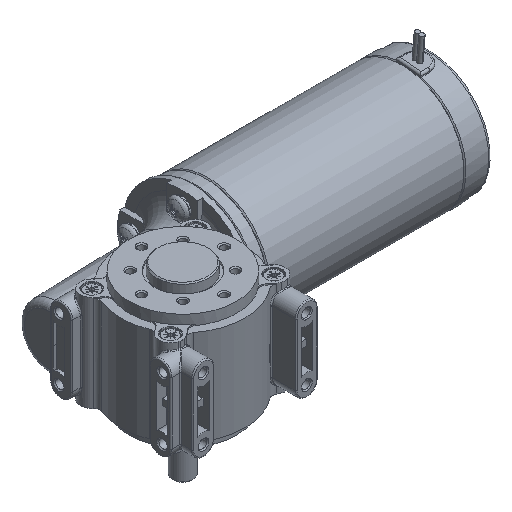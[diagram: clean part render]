
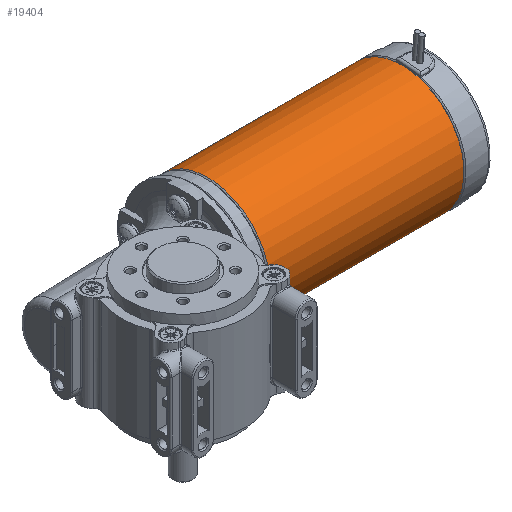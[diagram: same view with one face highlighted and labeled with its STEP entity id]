
A CAD part, isometric view. The second image highlights one B-rep face of the part: STEP entity #19404.
In plain terms, the highlighted cylindrical face has radius 30 mm (diameter 60 mm), a full revolution.
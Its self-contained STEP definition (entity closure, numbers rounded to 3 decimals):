
#2275=FACE_OUTER_BOUND('',#3442,.T.);
#3442=EDGE_LOOP('',(#16176,#16177,#16178,#16179));
#4700=CIRCLE('',#21446,30.);
#4701=CIRCLE('',#21448,30.);
#5858=LINE('',#35704,#6951);
#6951=VECTOR('',#26433,30.);
#8571=VERTEX_POINT('',#35698);
#8572=VERTEX_POINT('',#35702);
#11180=EDGE_CURVE('',#8571,#8571,#4700,.T.);
#11182=EDGE_CURVE('',#8572,#8572,#4701,.T.);
#11183=EDGE_CURVE('',#8572,#8571,#5858,.T.);
#16176=ORIENTED_EDGE('',*,*,#11182,.F.);
#16177=ORIENTED_EDGE('',*,*,#11183,.T.);
#16178=ORIENTED_EDGE('',*,*,#11180,.F.);
#16179=ORIENTED_EDGE('',*,*,#11183,.F.);
#17595=CYLINDRICAL_SURFACE('',#21447,30.);
#19404=ADVANCED_FACE('',(#2275),#17595,.T.);
#21446=AXIS2_PLACEMENT_3D('',#35699,#26426,#26427);
#21447=AXIS2_PLACEMENT_3D('',#35701,#26429,#26430);
#21448=AXIS2_PLACEMENT_3D('',#35703,#26431,#26432);
#26426=DIRECTION('center_axis',(1.,0.,0.));
#26427=DIRECTION('ref_axis',(0.,-0.707,-0.707));
#26429=DIRECTION('center_axis',(-1.,0.,0.));
#26430=DIRECTION('ref_axis',(0.,-0.707,-0.707));
#26431=DIRECTION('center_axis',(-1.,0.,0.));
#26432=DIRECTION('ref_axis',(0.,-0.707,-0.707));
#26433=DIRECTION('',(1.,0.,0.));
#35698=CARTESIAN_POINT('',(50.187,75.435,73.89));
#35699=CARTESIAN_POINT('Origin',(50.187,54.222,52.677));
#35701=CARTESIAN_POINT('Origin',(50.687,54.222,52.677));
#35702=CARTESIAN_POINT('',(-43.813,75.435,73.89));
#35703=CARTESIAN_POINT('Origin',(-43.813,54.222,52.677));
#35704=CARTESIAN_POINT('',(50.687,75.435,73.89));
